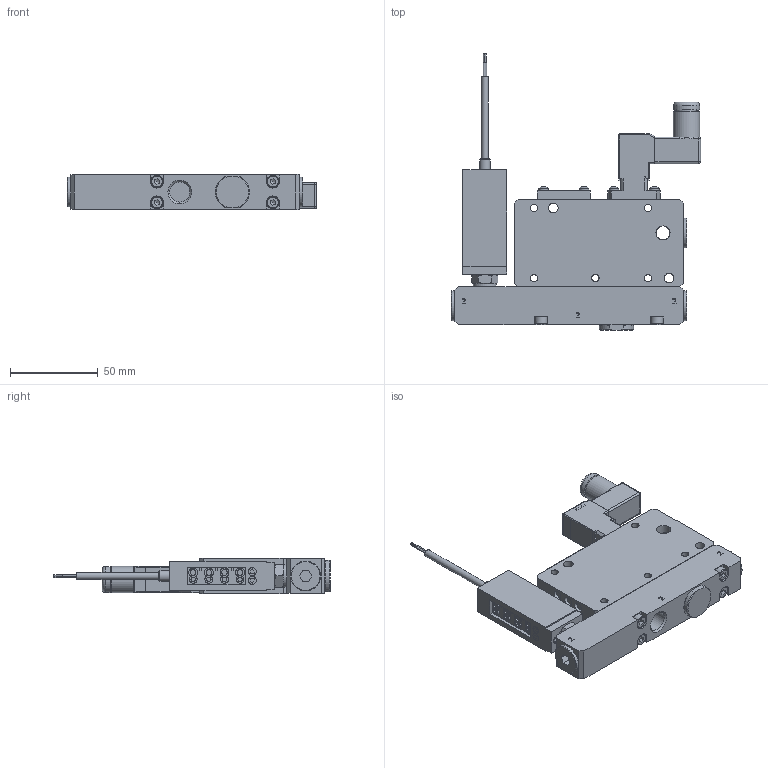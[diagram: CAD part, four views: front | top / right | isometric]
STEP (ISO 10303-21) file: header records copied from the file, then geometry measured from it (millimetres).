
FILE_DESCRIPTION(/* description */ ('GENERATORI DI VUOTO MULTISTADIO MODULARE 2 UGELLI (GVMES-2) SENZA EV. CONTROSOFFIO'),/* implementation_level */ '2;1');
FILE_NAME(/* name */ 'C:\PNX_VAULTFOLDER\Area Tecnica\Disegni\VARIE-3D\Componenti\1900 (vuoto)\19M14_M_09_ME_02.stp',/* time_stamp */ '2021-05-04T09:57:14+02:00',/* author */ ('maniean1'),/* organization */ (''),/* preprocessor_version */ 'ST-DEVELOPER v18.1',/* originating_system */ 'Autodesk Inventor 2021',/* authorisation */ '');
FILE_SCHEMA (('AUTOMOTIVE_DESIGN { 1 0 10303 214 3 1 1 }'));
Length unit declared in the file: millimetre
Products named in the file (7): 19M14.M.09.ME.02; 19M14_M_09_ME_ED_c; N221.0F; T10714; DS.30.C.C.F8.#.0; N221.00; 315.11.00
Assembly tree (8 placements, depth 2):
  19M14.M.09.ME.02
    19M14_M_09_ME_ED_c
    N221.0F
    T10714  x3
    DS.30.C.C.F8.#.0
    N221.00
    315.11.00
Bounding box: 141.9 x 157.3 x 20 mm (x, y, z)
Volume: 192852.8 mm3; surface area: 47921.3 mm2
Topology: 8 solids, 25 shells, 928 faces, 2307 edges, 1495 vertices
Faces by surface type: plane 497, cylinder 179, bspline 158, cone 65, torus 18, sphere 11
Full cylindrical faces by diameter (mm): 0.6 x3, 1 x2, 2 x2, 2.2 x2, 2.459 x5, 3 x5, 3.2 x2, 3.242 x4, 3.8 x3, 4 x7, 4.1 x5, 4.4 x1, 4.9 x1, 5.5 x9, 6 x1, 6.5 x1, 6.9 x1, 7 x6, 7.6 x1, 8 x2, 8.566 x1, 9.73 x1, 10 x1, 10.4 x1, 10.8 x1, 11.445 x4, 12.9 x1, 13 x1, 13.2 x3, 14.8 x1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
Entity records: 35834 total; most frequent: CARTESIAN_POINT 13882, ORIENTED_EDGE 4472, DIRECTION 3812, EDGE_CURVE 2236, VERTEX_POINT 1461, LINE 1298, VECTOR 1298, AXIS2_PLACEMENT_3D 1257
